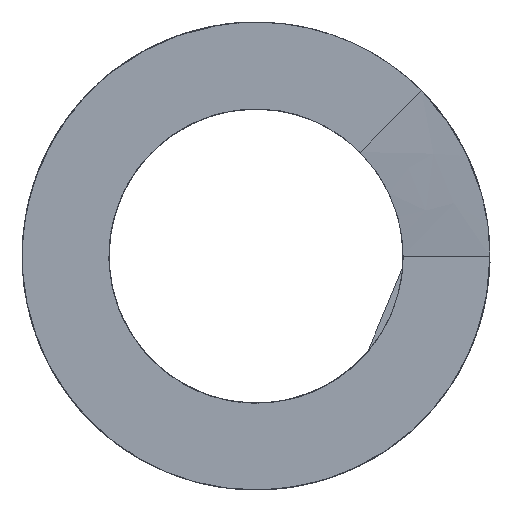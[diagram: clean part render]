
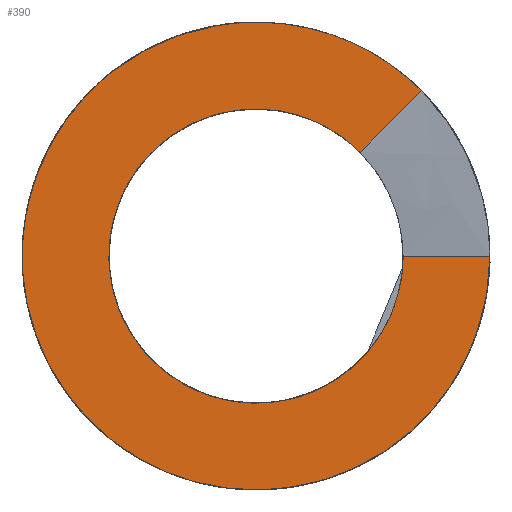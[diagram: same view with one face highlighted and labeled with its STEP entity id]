
A CAD part, front view. The second image highlights one B-rep face of the part: STEP entity #390.
In plain terms, the highlighted planar face has unit normal (0, -1, 0) by its records, which use the part's own axes.
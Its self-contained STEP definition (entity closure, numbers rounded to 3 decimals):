
#36=LINE('',#2192,#44);
#44=VECTOR('',#461,10.);
#74=B_SPLINE_CURVE_WITH_KNOTS('',3,(#1656,#1657,#1658,#1659,#1660,#1661,
#1662,#1663,#1664,#1665,#1666,#1667,#1668,#1669,#1670,#1671,#1672,#1673,
#1674,#1675,#1676,#1677,#1678,#1679,#1680,#1681,#1682,#1683,#1684,#1685,
#1686,#1687,#1688,#1689,#1690,#1691,#1692,#1693,#1694,#1695,#1696,#1697),
 .UNSPECIFIED.,.F.,.F.,(4,2,2,2,2,2,2,2,2,2,2,2,2,2,2,2,2,2,2,2,4),(-1.681,
-1.586,-1.491,-1.431,-1.324,
-1.228,-1.143,-1.072,-1.011,
-0.991,-0.98,-0.969,-0.953,
-0.834,-0.715,-0.596,-0.477,
-0.357,-0.238,-0.119,0.),
 .UNSPECIFIED.);
#83=B_SPLINE_CURVE_WITH_KNOTS('',3,(#2090,#2091,#2092,#2093,#2094,#2095,
#2096,#2097,#2098,#2099,#2100,#2101,#2102,#2103,#2104,#2105,#2106,#2107,
#2108,#2109,#2110,#2111,#2112,#2113,#2114,#2115,#2116,#2117,#2118,#2119,
#2120,#2121,#2122,#2123,#2124,#2125,#2126,#2127,#2128,#2129,#2130,#2131),
 .UNSPECIFIED.,.F.,.F.,(4,2,2,2,2,2,2,2,2,2,2,2,2,2,2,2,2,2,2,2,4),(-2.674,
-2.49,-2.306,-2.116,-1.927,
-1.738,-1.548,-1.359,-1.169,
-1.135,-1.119,-1.104,-1.08,
-1.056,-0.995,-0.836,-0.709,
-0.571,-0.379,-0.189,0.),
 .UNSPECIFIED.);
#89=B_SPLINE_CURVE_WITH_KNOTS('',3,(#2186,#2187,#2188,#2189,#2190,#2191),
 .UNSPECIFIED.,.F.,.F.,(4,2,4),(-0.18,-0.09,0.),
 .UNSPECIFIED.);
#114=FACE_OUTER_BOUND('',#140,.T.);
#140=EDGE_LOOP('',(#335,#336,#337,#338));
#171=VERTEX_POINT('',#1397);
#178=VERTEX_POINT('',#1651);
#181=VERTEX_POINT('',#1794);
#186=VERTEX_POINT('',#2089);
#224=EDGE_CURVE('',#178,#171,#74,.T.);
#235=EDGE_CURVE('',#181,#186,#83,.T.);
#242=EDGE_CURVE('',#186,#178,#89,.T.);
#243=EDGE_CURVE('',#171,#181,#36,.T.);
#335=ORIENTED_EDGE('',*,*,#242,.F.);
#336=ORIENTED_EDGE('',*,*,#235,.F.);
#337=ORIENTED_EDGE('',*,*,#243,.F.);
#338=ORIENTED_EDGE('',*,*,#224,.F.);
#372=PLANE('',#429);
#390=ADVANCED_FACE('',(#114),#372,.F.);
#429=AXIS2_PLACEMENT_3D('',#2185,#459,#460);
#459=DIRECTION('center_axis',(0.,1.,0.));
#460=DIRECTION('ref_axis',(0.,0.,1.));
#461=DIRECTION('',(1.,0.,0.));
#1397=CARTESIAN_POINT('',(3.05,0.,0.));
#1651=CARTESIAN_POINT('',(2.157,0.,2.157));
#1656=CARTESIAN_POINT('Ctrl Pts',(2.157,0.,
2.157));
#1657=CARTESIAN_POINT('Ctrl Pts',(1.932,0.,
2.381));
#1658=CARTESIAN_POINT('Ctrl Pts',(1.674,0.,
2.569));
#1659=CARTESIAN_POINT('Ctrl Pts',(1.11,0.,
2.859));
#1660=CARTESIAN_POINT('Ctrl Pts',(0.806,0.,
2.959));
#1661=CARTESIAN_POINT('Ctrl Pts',(0.298,0.,
3.042));
#1662=CARTESIAN_POINT('Ctrl Pts',(0.1,0.,
3.055));
#1663=CARTESIAN_POINT('Ctrl Pts',(-0.456,0.,
3.037));
#1664=CARTESIAN_POINT('Ctrl Pts',(-0.809,0.,
2.963));
#1665=CARTESIAN_POINT('Ctrl Pts',(-1.437,0.,
2.709));
#1666=CARTESIAN_POINT('Ctrl Pts',(-1.714,0.,
2.543));
#1667=CARTESIAN_POINT('Ctrl Pts',(-2.176,0.,
2.156));
#1668=CARTESIAN_POINT('Ctrl Pts',(-2.366,0.,
1.945));
#1669=CARTESIAN_POINT('Ctrl Pts',(-2.658,0.,
1.514));
#1670=CARTESIAN_POINT('Ctrl Pts',(-2.768,0.,
1.302));
#1671=CARTESIAN_POINT('Ctrl Pts',(-2.925,0.,
0.889));
#1672=CARTESIAN_POINT('Ctrl Pts',(-2.977,0.,
0.692));
#1673=CARTESIAN_POINT('Ctrl Pts',(-3.021,0.,
0.426));
#1674=CARTESIAN_POINT('Ctrl Pts',(-3.029,0.,
0.359));
#1675=CARTESIAN_POINT('Ctrl Pts',(-3.039,0.,
0.259));
#1676=CARTESIAN_POINT('Ctrl Pts',(-3.042,0.,
0.225));
#1677=CARTESIAN_POINT('Ctrl Pts',(-3.046,0.,
0.152));
#1678=CARTESIAN_POINT('Ctrl Pts',(-3.048,0.,
0.113));
#1679=CARTESIAN_POINT('Ctrl Pts',(-3.05,0.,
0.022));
#1680=CARTESIAN_POINT('Ctrl Pts',(-3.05,0.,
-0.029));
#1681=CARTESIAN_POINT('Ctrl Pts',(-3.039,0.,
-0.477));
#1682=CARTESIAN_POINT('Ctrl Pts',(-2.951,0.,
-0.868));
#1683=CARTESIAN_POINT('Ctrl Pts',(-2.63,0.,
-1.595));
#1684=CARTESIAN_POINT('Ctrl Pts',(-2.4,0.,
-1.923));
#1685=CARTESIAN_POINT('Ctrl Pts',(-1.828,0.,
-2.474));
#1686=CARTESIAN_POINT('Ctrl Pts',(-1.49,0.,
-2.691));
#1687=CARTESIAN_POINT('Ctrl Pts',(-0.751,0.,
-2.983));
#1688=CARTESIAN_POINT('Ctrl Pts',(-0.357,0.,
-3.055));
#1689=CARTESIAN_POINT('Ctrl Pts',(0.437,0.,
-3.045));
#1690=CARTESIAN_POINT('Ctrl Pts',(0.829,0.,
-2.962));
#1691=CARTESIAN_POINT('Ctrl Pts',(1.56,0.,
-2.651));
#1692=CARTESIAN_POINT('Ctrl Pts',(1.892,0.,
-2.425));
#1693=CARTESIAN_POINT('Ctrl Pts',(2.45,0.,
-1.86));
#1694=CARTESIAN_POINT('Ctrl Pts',(2.671,0.,
-1.525));
#1695=CARTESIAN_POINT('Ctrl Pts',(2.972,0.,
-0.791));
#1696=CARTESIAN_POINT('Ctrl Pts',(3.05,0.,-0.397));
#1697=CARTESIAN_POINT('Ctrl Pts',(3.05,0.,0.));
#1794=CARTESIAN_POINT('',(4.85,0.,0.));
#2089=CARTESIAN_POINT('',(3.429,0.,3.429));
#2090=CARTESIAN_POINT('Ctrl Pts',(4.85,0.,0.));
#2091=CARTESIAN_POINT('Ctrl Pts',(4.85,0.,-0.613));
#2092=CARTESIAN_POINT('Ctrl Pts',(4.734,0.,-1.22));
#2093=CARTESIAN_POINT('Ctrl Pts',(4.281,0.,-2.359));
#2094=CARTESIAN_POINT('Ctrl Pts',(3.949,0.,-2.881));
#2095=CARTESIAN_POINT('Ctrl Pts',(3.096,0.,-3.787));
#2096=CARTESIAN_POINT('Ctrl Pts',(2.577,0.,-4.157));
#2097=CARTESIAN_POINT('Ctrl Pts',(1.426,0.,-4.678));
#2098=CARTESIAN_POINT('Ctrl Pts',(0.806,0.,-4.824));
#2099=CARTESIAN_POINT('Ctrl Pts',(-0.457,0.,-4.87));
#2100=CARTESIAN_POINT('Ctrl Pts',(-1.086,0.,-4.769));
#2101=CARTESIAN_POINT('Ctrl Pts',(-2.271,0.,-4.332));
#2102=CARTESIAN_POINT('Ctrl Pts',(-2.815,0.,-3.999));
#2103=CARTESIAN_POINT('Ctrl Pts',(-3.746,0.,-3.145));
#2104=CARTESIAN_POINT('Ctrl Pts',(-4.123,0.,-2.631));
#2105=CARTESIAN_POINT('Ctrl Pts',(-4.659,0.,-1.488));
#2106=CARTESIAN_POINT('Ctrl Pts',(-4.813,0.,-0.869));
#2107=CARTESIAN_POINT('Ctrl Pts',(-4.85,0.,-0.125));
#2108=CARTESIAN_POINT('Ctrl Pts',(-4.851,0.,
-0.012));
#2109=CARTESIAN_POINT('Ctrl Pts',(-4.848,0.,
0.154));
#2110=CARTESIAN_POINT('Ctrl Pts',(-4.846,0.,
0.208));
#2111=CARTESIAN_POINT('Ctrl Pts',(-4.84,0.,
0.313));
#2112=CARTESIAN_POINT('Ctrl Pts',(-4.837,0.,
0.364));
#2113=CARTESIAN_POINT('Ctrl Pts',(-4.825,0.,
0.494));
#2114=CARTESIAN_POINT('Ctrl Pts',(-4.817,0.,
0.574));
#2115=CARTESIAN_POINT('Ctrl Pts',(-4.795,0.,
0.733));
#2116=CARTESIAN_POINT('Ctrl Pts',(-4.782,0.,
0.813));
#2117=CARTESIAN_POINT('Ctrl Pts',(-4.73,0.,
1.092));
#2118=CARTESIAN_POINT('Ctrl Pts',(-4.68,0.,
1.289));
#2119=CARTESIAN_POINT('Ctrl Pts',(-4.456,0.,
1.986));
#2120=CARTESIAN_POINT('Ctrl Pts',(-4.214,0.,
2.459));
#2121=CARTESIAN_POINT('Ctrl Pts',(-3.649,0.,
3.223));
#2122=CARTESIAN_POINT('Ctrl Pts',(-3.354,0.,
3.529));
#2123=CARTESIAN_POINT('Ctrl Pts',(-2.662,0.,
4.08));
#2124=CARTESIAN_POINT('Ctrl Pts',(-2.261,0.,
4.316));
#2125=CARTESIAN_POINT('Ctrl Pts',(-1.241,0.,
4.732));
#2126=CARTESIAN_POINT('Ctrl Pts',(-0.607,0.,
4.854));
#2127=CARTESIAN_POINT('Ctrl Pts',(0.663,0.,
4.846));
#2128=CARTESIAN_POINT('Ctrl Pts',(1.288,0.,
4.718));
#2129=CARTESIAN_POINT('Ctrl Pts',(2.453,0.,
4.231));
#2130=CARTESIAN_POINT('Ctrl Pts',(2.983,0.,
3.876));
#2131=CARTESIAN_POINT('Ctrl Pts',(3.429,0.,
3.429));
#2185=CARTESIAN_POINT('Origin',(0.,0.,0.));
#2186=CARTESIAN_POINT('Ctrl Pts',(3.429,0.,
3.429));
#2187=CARTESIAN_POINT('Ctrl Pts',(3.217,0.,
3.217));
#2188=CARTESIAN_POINT('Ctrl Pts',(3.005,0.,
3.005));
#2189=CARTESIAN_POINT('Ctrl Pts',(2.581,0.,
2.581));
#2190=CARTESIAN_POINT('Ctrl Pts',(2.369,0.,
2.369));
#2191=CARTESIAN_POINT('Ctrl Pts',(2.157,0.,
2.157));
#2192=CARTESIAN_POINT('',(1.975,0.,0.));
